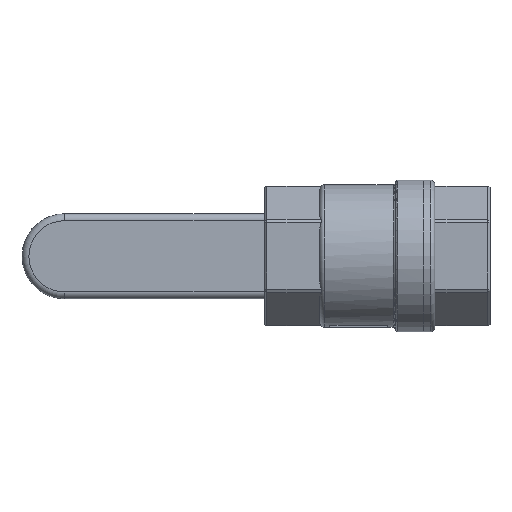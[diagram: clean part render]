
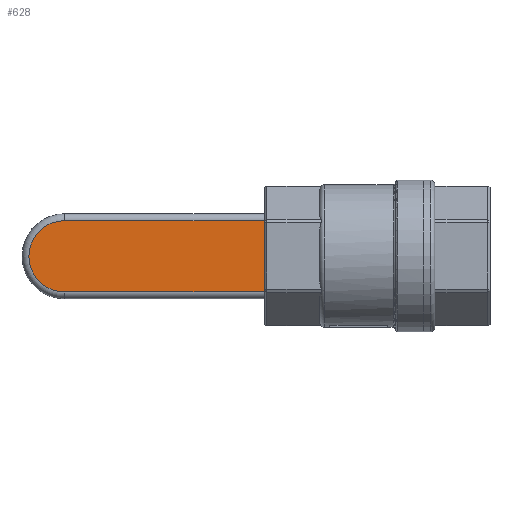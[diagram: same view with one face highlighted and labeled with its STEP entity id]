
A CAD part, top view. The second image highlights one B-rep face of the part: STEP entity #628.
In plain terms, the highlighted planar face has unit normal (0, 0, 1).
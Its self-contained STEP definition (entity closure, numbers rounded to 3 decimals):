
#628 = ADVANCED_FACE( '', ( #1461 ), #1462, .T. );
#1461 = FACE_OUTER_BOUND( '', #2636, .T. );
#1462 = PLANE( '', #2637 );
#2636 = EDGE_LOOP( '', ( #6235, #6236, #6237, #6238 ) );
#2637 = AXIS2_PLACEMENT_3D( '', #6239, #6240, #6241 );
#6235 = ORIENTED_EDGE( '', *, *, #8541, .T. );
#6236 = ORIENTED_EDGE( '', *, *, #8546, .T. );
#6237 = ORIENTED_EDGE( '', *, *, #8515, .T. );
#6238 = ORIENTED_EDGE( '', *, *, #8547, .T. );
#6239 = CARTESIAN_POINT( '', ( -185., 0., -78. ) );
#6240 = DIRECTION( '', ( 0., 0., 1. ) );
#6241 = DIRECTION( '', ( 1., 0., 0. ) );
#8515 = EDGE_CURVE( '', #9969, #9970, #9971, .T. );
#8541 = EDGE_CURVE( '', #10009, #10007, #10010, .T. );
#8546 = EDGE_CURVE( '', #10007, #9969, #10016, .T. );
#8547 = EDGE_CURVE( '', #9970, #10009, #10017, .T. );
#9969 = VERTEX_POINT( '', #13469 );
#9970 = VERTEX_POINT( '', #13470 );
#9971 = LINE( '', #13471, #13472 );
#10007 = VERTEX_POINT( '', #13561 );
#10009 = VERTEX_POINT( '', #13563 );
#10010 = CIRCLE( '', #13564, 15.5 );
#10016 = LINE( '', #13570, #13571 );
#10017 = LINE( '', #13572, #13573 );
#13469 = CARTESIAN_POINT( '', ( -89., -15.5, -78. ) );
#13470 = CARTESIAN_POINT( '', ( -89., 15.5, -78. ) );
#13471 = CARTESIAN_POINT( '', ( -89., 18.5, -78. ) );
#13472 = VECTOR( '', #15015, 1000. );
#13561 = CARTESIAN_POINT( '', ( -185., -15.5, -78. ) );
#13563 = CARTESIAN_POINT( '', ( -185., 15.5, -78. ) );
#13564 = AXIS2_PLACEMENT_3D( '', #15040, #15041, #15042 );
#13570 = CARTESIAN_POINT( '', ( -89., -15.5, -78. ) );
#13571 = VECTOR( '', #15049, 1000. );
#13572 = CARTESIAN_POINT( '', ( -185., 15.5, -78. ) );
#13573 = VECTOR( '', #15050, 1000. );
#15015 = DIRECTION( '', ( 0., 1., 0. ) );
#15040 = CARTESIAN_POINT( '', ( -185., 0., -78. ) );
#15041 = DIRECTION( '', ( 0., 0., 1. ) );
#15042 = DIRECTION( '', ( 1., 0., 0. ) );
#15049 = DIRECTION( '', ( 1., 0., 0. ) );
#15050 = DIRECTION( '', ( -1., 0., 0. ) );
